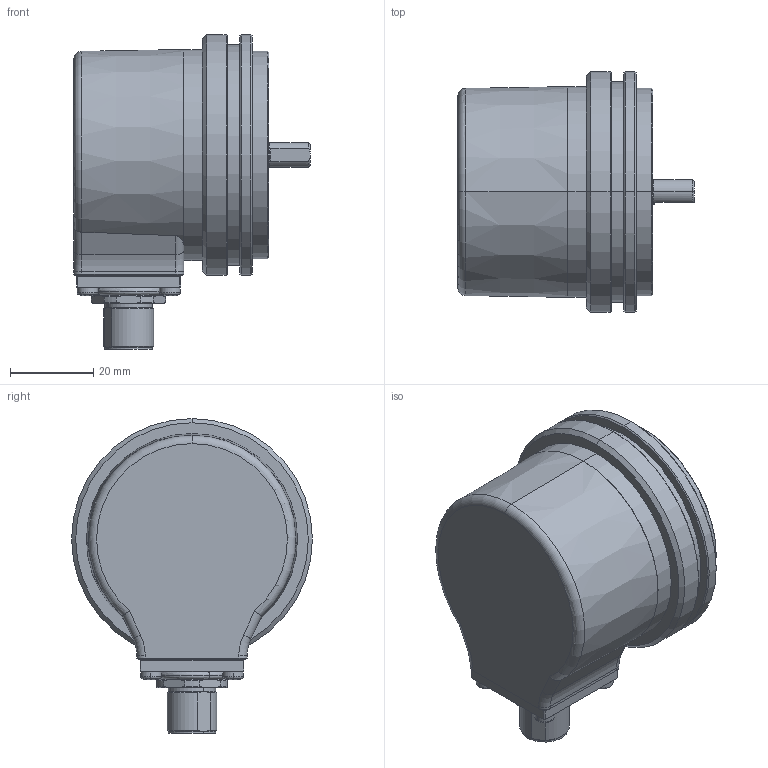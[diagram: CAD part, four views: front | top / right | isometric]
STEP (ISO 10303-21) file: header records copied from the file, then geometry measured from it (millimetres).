
FILE_DESCRIPTION (( 'STEP AP203' ), '1' );
FILE_NAME ('8.5000.B17R.XXXX.STEP', '2017-04-05T07:54:50', ( '' ), ( '' ), 'SwSTEP 2.0', 'SolidWorks 2017', '' );
FILE_SCHEMA (( 'CONFIG_CONTROL_DESIGN' ));
Length unit declared in the file: millimetre
Products named in the file (1): 8.5000.B17R.XXXX
Bounding box: 57 x 58 x 75.8 mm (x, y, z)
Surface area: 35470 mm2 (no closed solid volume)
Topology: 0 solids, 15 shells, 615 faces, 1457 edges, 864 vertices
Faces by surface type: plane 204, cylinder 176, cone 114, bspline 62, torus 47, sphere 12
Entity records: 19950 total; most frequent: CARTESIAN_POINT 6024, DIRECTION 3030, ORIENTED_EDGE 2786, EDGE_CURVE 1401, AXIS2_PLACEMENT_3D 1246, VERTEX_POINT 864, EDGE_LOOP 707, CIRCLE 692
